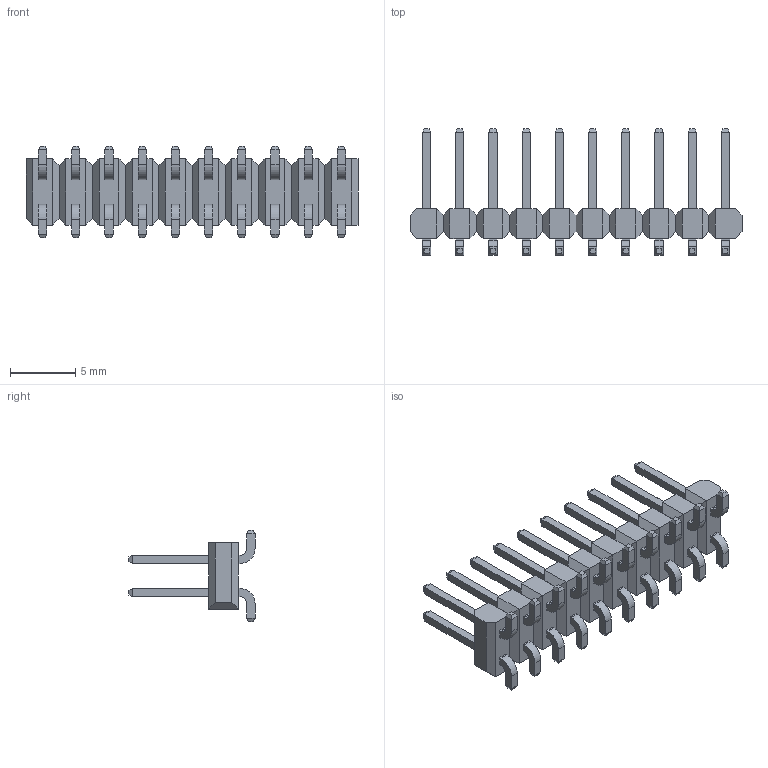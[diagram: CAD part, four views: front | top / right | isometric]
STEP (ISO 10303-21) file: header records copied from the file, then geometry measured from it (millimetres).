
FILE_DESCRIPTION((''),'2;1');
FILE_NAME('015910200','2008-06-02T',('pnb'),(''),'PRO/ENGINEER BY PARAMETRIC TECHNOLOGY CORPORATION, 2003451','PRO/ENGINEER BY PARAMETRIC TECHNOLOGY CORPORATION, 2003451','');
FILE_SCHEMA(('CONFIG_CONTROL_DESIGN'));
Length unit declared in the file: inch
Products named in the file (1): 015910200
Bounding box: 25.4 x 9.65 x 6.99 mm (x, y, z)
Volume: 331.6 mm3; surface area: 859.1 mm2
Topology: 1 solids, 1 shells, 559 faces, 1361 edges, 844 vertices
Faces by surface type: plane 519, cylinder 40
Entity records: 15684 total; most frequent: CARTESIAN_POINT 2685, ORIENTED_EDGE 2562, DIRECTION 2561, VECTOR 1281, LINE 1281, EDGE_CURVE 1281, VERTEX_POINT 764, AXIS2_PLACEMENT_3D 640
